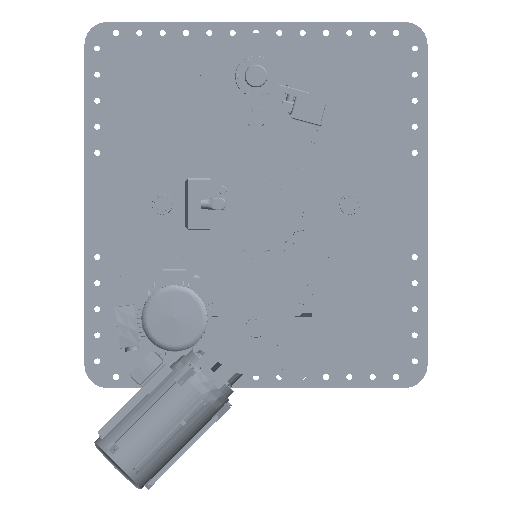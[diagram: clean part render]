
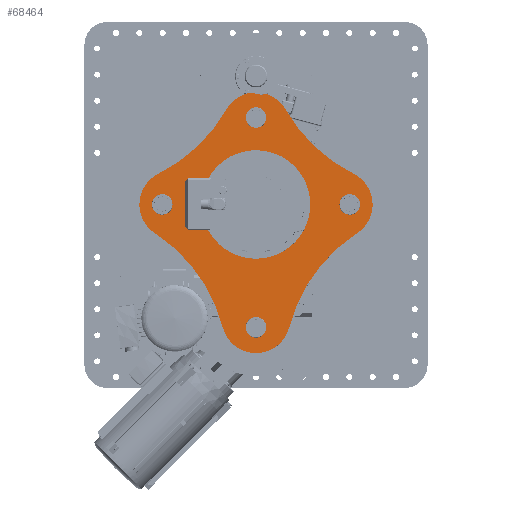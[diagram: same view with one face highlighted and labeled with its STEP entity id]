
A CAD part, top view. The second image highlights one B-rep face of the part: STEP entity #68464.
In plain terms, the highlighted planar face has unit normal (0, 0, 1).
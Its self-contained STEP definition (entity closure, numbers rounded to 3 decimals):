
#1808=PLANE('',#73809);
#4564=FACE_BOUND('',#10636,.T.);
#4565=FACE_BOUND('',#10637,.T.);
#4566=FACE_BOUND('',#10638,.T.);
#4567=FACE_BOUND('',#10639,.T.);
#4568=FACE_BOUND('',#10640,.T.);
#6774=FACE_OUTER_BOUND('',#10635,.T.);
#10635=EDGE_LOOP('',(#51623,#51624,#51625,#51626,#51627,#51628,#51629,#51630));
#10636=EDGE_LOOP('',(#51631));
#10637=EDGE_LOOP('',(#51632));
#10638=EDGE_LOOP('',(#51633));
#10639=EDGE_LOOP('',(#51634));
#10640=EDGE_LOOP('',(#51635));
#14632=CIRCLE('',#73412,118.5);
#14733=CIRCLE('',#73798,22.5);
#14735=CIRCLE('',#73801,22.5);
#14737=CIRCLE('',#73804,22.5);
#14739=CIRCLE('',#73807,22.5);
#14741=CIRCLE('',#73810,350.);
#14742=CIRCLE('',#73811,75.);
#14743=CIRCLE('',#73812,350.);
#14744=CIRCLE('',#73813,75.);
#14745=CIRCLE('',#73814,350.);
#14746=CIRCLE('',#73815,75.);
#14747=CIRCLE('',#73816,350.);
#14748=CIRCLE('',#73817,75.);
#28950=VERTEX_POINT('',#119003);
#29175=VERTEX_POINT('',#120428);
#29177=VERTEX_POINT('',#120434);
#29179=VERTEX_POINT('',#120440);
#29181=VERTEX_POINT('',#120446);
#29183=VERTEX_POINT('',#120452);
#29184=VERTEX_POINT('',#120453);
#29185=VERTEX_POINT('',#120455);
#29186=VERTEX_POINT('',#120457);
#29187=VERTEX_POINT('',#120459);
#29188=VERTEX_POINT('',#120461);
#29189=VERTEX_POINT('',#120463);
#29190=VERTEX_POINT('',#120465);
#36690=EDGE_CURVE('',#28950,#28950,#14632,.T.);
#37169=EDGE_CURVE('',#29175,#29175,#14733,.T.);
#37172=EDGE_CURVE('',#29177,#29177,#14735,.T.);
#37175=EDGE_CURVE('',#29179,#29179,#14737,.T.);
#37178=EDGE_CURVE('',#29181,#29181,#14739,.T.);
#37181=EDGE_CURVE('',#29183,#29184,#14741,.T.);
#37182=EDGE_CURVE('',#29184,#29185,#14742,.T.);
#37183=EDGE_CURVE('',#29185,#29186,#14743,.T.);
#37184=EDGE_CURVE('',#29186,#29187,#14744,.T.);
#37185=EDGE_CURVE('',#29187,#29188,#14745,.T.);
#37186=EDGE_CURVE('',#29188,#29189,#14746,.T.);
#37187=EDGE_CURVE('',#29189,#29190,#14747,.T.);
#37188=EDGE_CURVE('',#29190,#29183,#14748,.T.);
#51623=ORIENTED_EDGE('',*,*,#37181,.T.);
#51624=ORIENTED_EDGE('',*,*,#37182,.T.);
#51625=ORIENTED_EDGE('',*,*,#37183,.T.);
#51626=ORIENTED_EDGE('',*,*,#37184,.T.);
#51627=ORIENTED_EDGE('',*,*,#37185,.T.);
#51628=ORIENTED_EDGE('',*,*,#37186,.T.);
#51629=ORIENTED_EDGE('',*,*,#37187,.T.);
#51630=ORIENTED_EDGE('',*,*,#37188,.T.);
#51631=ORIENTED_EDGE('',*,*,#36690,.T.);
#51632=ORIENTED_EDGE('',*,*,#37169,.T.);
#51633=ORIENTED_EDGE('',*,*,#37172,.T.);
#51634=ORIENTED_EDGE('',*,*,#37175,.T.);
#51635=ORIENTED_EDGE('',*,*,#37178,.T.);
#68464=ADVANCED_FACE('',(#6774,#4564,#4565,#4566,#4567,#4568),#1808,.T.);
#73412=AXIS2_PLACEMENT_3D('',#119005,#85007,#85008);
#73798=AXIS2_PLACEMENT_3D('',#120429,#86140,#86141);
#73801=AXIS2_PLACEMENT_3D('',#120435,#86147,#86148);
#73804=AXIS2_PLACEMENT_3D('',#120441,#86154,#86155);
#73807=AXIS2_PLACEMENT_3D('',#120447,#86161,#86162);
#73809=AXIS2_PLACEMENT_3D('',#120451,#86166,#86167);
#73810=AXIS2_PLACEMENT_3D('',#120454,#86168,#86169);
#73811=AXIS2_PLACEMENT_3D('',#120456,#86170,#86171);
#73812=AXIS2_PLACEMENT_3D('',#120458,#86172,#86173);
#73813=AXIS2_PLACEMENT_3D('',#120460,#86174,#86175);
#73814=AXIS2_PLACEMENT_3D('',#120462,#86176,#86177);
#73815=AXIS2_PLACEMENT_3D('',#120464,#86178,#86179);
#73816=AXIS2_PLACEMENT_3D('',#120466,#86180,#86181);
#73817=AXIS2_PLACEMENT_3D('',#120467,#86182,#86183);
#85007=DIRECTION('center_axis',(0.,0.,
-1.));
#85008=DIRECTION('ref_axis',(-1.,0.,0.));
#86140=DIRECTION('center_axis',(0.,0.,
-1.));
#86141=DIRECTION('ref_axis',(0.,-1.,0.));
#86147=DIRECTION('center_axis',(0.,0.,
-1.));
#86148=DIRECTION('ref_axis',(0.,-1.,0.));
#86154=DIRECTION('center_axis',(0.,0.,
-1.));
#86155=DIRECTION('ref_axis',(0.,-1.,0.));
#86161=DIRECTION('center_axis',(0.,0.,
-1.));
#86162=DIRECTION('ref_axis',(0.,-1.,0.));
#86166=DIRECTION('center_axis',(0.,0.,
1.));
#86167=DIRECTION('ref_axis',(0.,-1.,0.));
#86168=DIRECTION('center_axis',(0.,0.,
-1.));
#86169=DIRECTION('ref_axis',(-0.968,-0.25,0.));
#86170=DIRECTION('center_axis',(0.,0.,
1.));
#86171=DIRECTION('ref_axis',(-0.968,-0.25,0.));
#86172=DIRECTION('center_axis',(0.,0.,
-1.));
#86173=DIRECTION('ref_axis',(0.545,-0.839,0.));
#86174=DIRECTION('center_axis',(0.,0.,
1.));
#86175=DIRECTION('ref_axis',(0.545,-0.839,0.));
#86176=DIRECTION('center_axis',(0.,0.,
-1.));
#86177=DIRECTION('ref_axis',(0.869,0.495,0.));
#86178=DIRECTION('center_axis',(0.,0.,
1.));
#86179=DIRECTION('ref_axis',(0.869,0.495,0.));
#86180=DIRECTION('center_axis',(0.,0.,
-1.));
#86181=DIRECTION('ref_axis',(-0.445,0.895,0.));
#86182=DIRECTION('center_axis',(0.,0.,
1.));
#86183=DIRECTION('ref_axis',(-0.445,0.895,0.));
#119003=CARTESIAN_POINT('',(118.5,0.,665.));
#119005=CARTESIAN_POINT('Origin',(0.,0.,
665.));
#120428=CARTESIAN_POINT('',(0.,212.5,665.));
#120429=CARTESIAN_POINT('Origin',(0.,190.,
665.));
#120434=CARTESIAN_POINT('',(205.,22.5,665.));
#120435=CARTESIAN_POINT('Origin',(205.,0.,665.));
#120440=CARTESIAN_POINT('',(-205.,22.5,665.));
#120441=CARTESIAN_POINT('Origin',(-205.,0.,665.));
#120446=CARTESIAN_POINT('',(0.,-246.14,665.));
#120447=CARTESIAN_POINT('Origin',(0.,-268.64,
665.));
#120451=CARTESIAN_POINT('Origin',(0.,0.,
665.));
#120452=CARTESIAN_POINT('',(-220.845,-62.902,665.));
#120453=CARTESIAN_POINT('',(-72.609,-268.785,665.));
#120454=CARTESIAN_POINT('Origin',(-411.454,-356.447,665.));
#120455=CARTESIAN_POINT('',(72.609,-268.785,665.));
#120456=CARTESIAN_POINT('Origin',(0.,-250.,
665.));
#120457=CARTESIAN_POINT('',(220.845,-62.902,665.));
#120458=CARTESIAN_POINT('Origin',(411.454,-356.447,665.));
#120459=CARTESIAN_POINT('',(213.381,67.162,665.));
#120460=CARTESIAN_POINT('Origin',(180.,0.,665.));
#120461=CARTESIAN_POINT('',(65.146,207.162,665.));
#120462=CARTESIAN_POINT('Origin',(369.161,380.582,665.));
#120463=CARTESIAN_POINT('',(-65.146,207.162,665.));
#120464=CARTESIAN_POINT('Origin',(0.,170.,
665.));
#120465=CARTESIAN_POINT('',(-213.381,67.162,665.));
#120466=CARTESIAN_POINT('Origin',(-369.161,380.582,665.));
#120467=CARTESIAN_POINT('Origin',(-180.,0.,665.));
